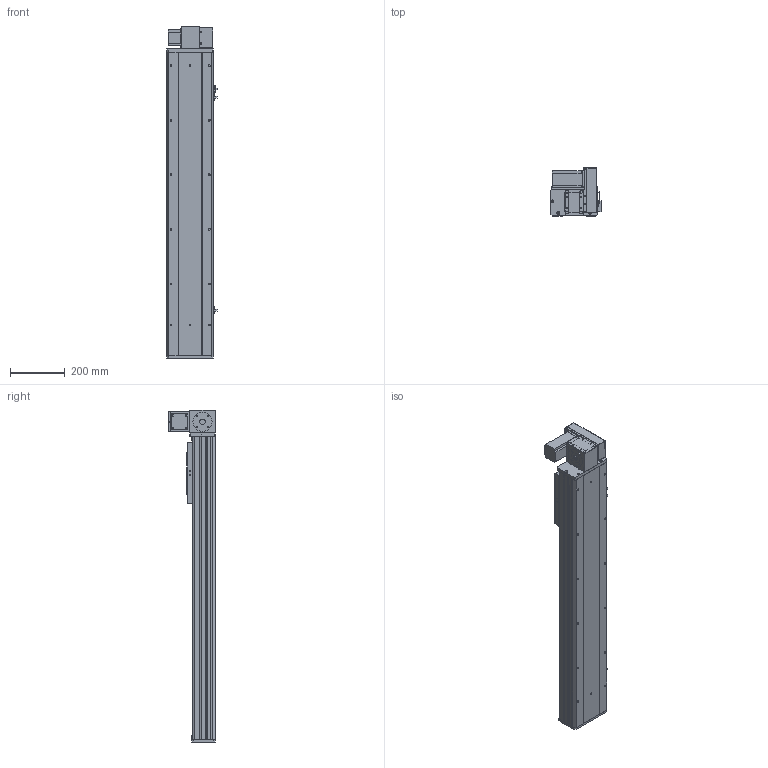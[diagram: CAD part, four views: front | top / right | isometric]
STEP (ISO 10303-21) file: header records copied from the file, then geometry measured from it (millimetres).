
FILE_DESCRIPTION (( 'STEP AP203' ), '1' );
FILE_NAME ('Y170CB-D105-S800-UR-P400W.STEP', '2020-02-20T04:00:21', ( '微软用户' ), ( '微软中国' ), 'SwSTEP 2.0', 'SolidWorks 2017', '' );
FILE_SCHEMA (( 'CONFIG_CONTROL_DESIGN' ));
Length unit declared in the file: millimetre
Products named in the file (18): 17B-耜蚾蟀諉啣----; 70C--詩湍揤踡え-; 00B-俋欶BM--163; 70CB--耜裔; 70B喘謫眊----; 70C-雄赽釱-奻-; B-源倛裔啣; Y170CB-D105-S800-UR-P400W; 0C--雄赽釱俋欶-170; 0B-萇儂楊擘啣; 70CB-詩湍--; san松下电机400不带刹车----; Y100-135俋离換覜ん--; 70CB-掛极-; Y170CB-陔俋离換覜結え---; --70CB --喘謫眊楊擘啣-; Y1埴倛裔; 70CB-耜裔啣-
Assembly tree (21 placements, depth 2):
  Y170CB-D105-S800-UR-P400W
    B-源倛裔啣
    0B-萇儂楊擘啣
    san松下电机400不带刹车----
    70CB-掛极-
    --70CB --喘謫眊楊擘啣-
    70CB-耜裔啣-  x2
    70C--詩湍揤踡え-  x2
    70CB--耜裔
    70C-雄赽釱-奻-
    0C--雄赽釱俋欶-170
    70CB-詩湍--
    Y100-135俋离換覜ん--  x3
    Y170CB-陔俋离換覜結え---
    Y1埴倛裔
    17B-耜蚾蟀諉啣----
    00B-俋欶BM--163
    70B喘謫眊----
Bounding box: 183.5 x 174 x 1216 mm (x, y, z)
Volume: 5752100 mm3; surface area: 2057046.9 mm2
Topology: 21 solids, 21 shells, 999 faces, 2669 edges, 1770 vertices
Faces by surface type: cylinder 513, plane 462, cone 24
Entity records: 31744 total; most frequent: CARTESIAN_POINT 5796, DIRECTION 5162, ORIENTED_EDGE 4820, EDGE_CURVE 2410, AXIS2_PLACEMENT_3D 1888, VERTEX_POINT 1600, VECTOR 1386, LINE 1386
